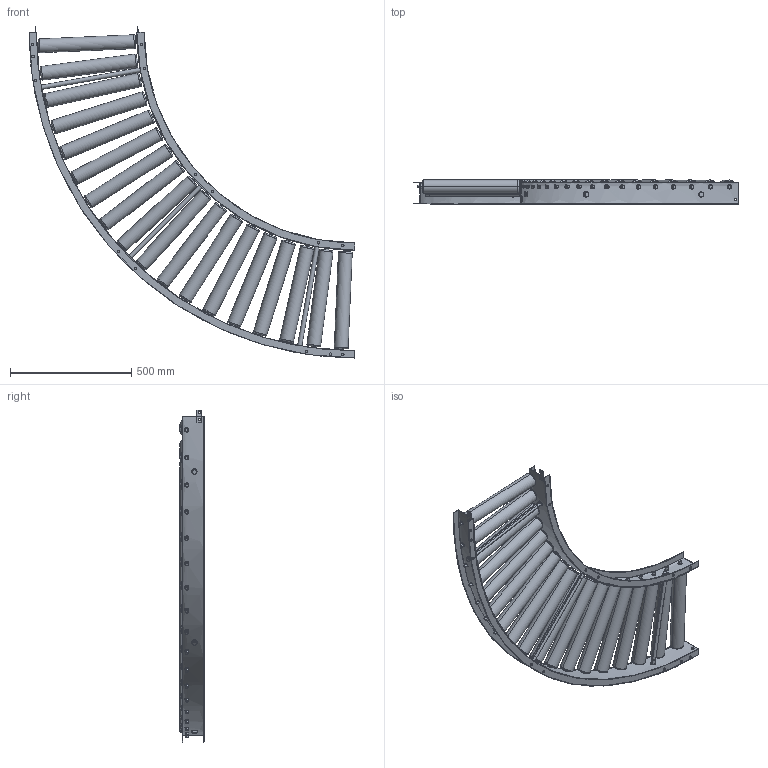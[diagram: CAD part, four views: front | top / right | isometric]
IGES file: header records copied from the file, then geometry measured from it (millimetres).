
Start section: SolidWorks IGES file using analytic representation for surfaces
Global section: file name: C:\Users\0656\Desktop\変換ツール\iges変換\RS-5715_C.igs; native system: SolidWorks 2023; preprocessor: SolidWorks 2023; author: 0656; date: 240315.112528; units: millimetre
Bounding box: 1345 x 100 x 1370.08 mm (x, y, z)
Surface area: 3110134.8 mm2 (no closed solid volume)
Topology: 0 solids, 0 shells, 748 faces, 16408 edges, 16408 vertices
Faces by surface type: revolution 406, bspline 342
